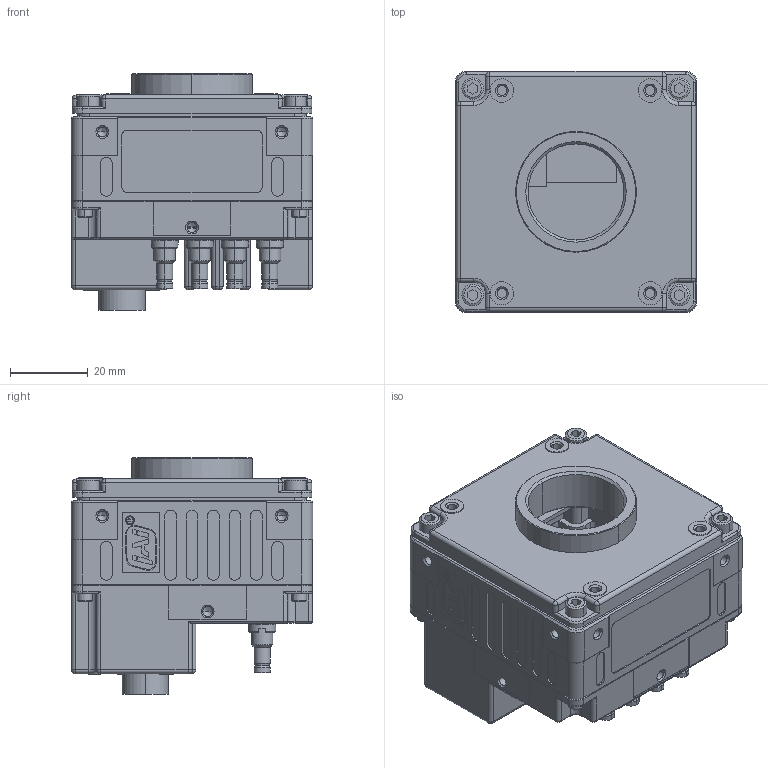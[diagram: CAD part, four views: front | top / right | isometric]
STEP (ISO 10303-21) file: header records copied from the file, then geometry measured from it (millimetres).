
FILE_DESCRIPTION((''),'2;1');
FILE_NAME('SP-5000M-CXP4','2013-05-09T',('aso'),(''),'PRO/ENGINEER BY PARAMETRIC TECHNOLOGY CORPORATION, 2011250','PRO/ENGINEER BY PARAMETRIC TECHNOLOGY CORPORATION, 2011250','');
FILE_SCHEMA(('CONFIG_CONTROL_DESIGN'));
Products named in the file (1): SP-5000M-CXP4
Bounding box: 62 x 62 x 60.8 mm (x, y, z)
Volume: 56068.7 mm3; surface area: 49722.1 mm2
Topology: 1 solids, 14 shells, 3125 faces, 8210 edges, 5264 vertices
Faces by surface type: plane 2048, cylinder 697, cone 266, torus 67, sphere 37, bspline 10
Entity records: 95818 total; most frequent: CARTESIAN_POINT 17924, ORIENTED_EDGE 16238, DIRECTION 15948, EDGE_CURVE 8119, VECTOR 6136, LINE 6136, VERTEX_POINT 5264, AXIS2_PLACEMENT_3D 4906
